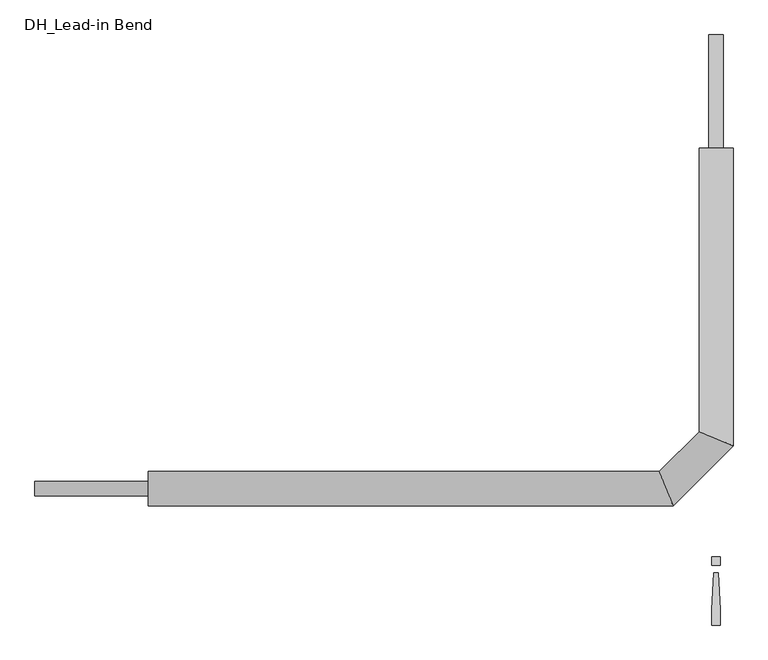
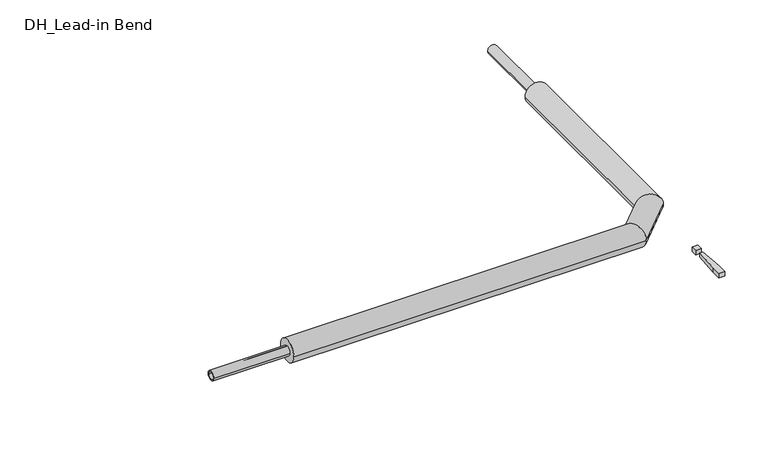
"""IFC4 building model written with IfcOpenShell, lengths in millimetres: pipe fitting geometry, DH_Lead-in Bend : INSULPEX UNO 7.4 DW."""

from ifc_helpers import new_model, si_unit, point, frame, origin, origin_with_axes, origin_2d, place, context, project, spatial, polyline, circle_curve, ellipse_curve, trimmed, segment, composite_curve, outline, extrude, source, transform, mapped, element, save
from ifc_brep_helpers import plane_surface, cylinder_surface, advanced_brep


def dh_lead_in_bend_feeb489e(model_context):
    return source(origin(), model_context, "Body", "SolidModel", [
        advanced_brep(
        [(-1250.0, -37.5, 0.0), (-1250.0, 37.5, 0.0), (-94.4669914, -37.5, 0.0), (-125.5330086, 37.5, 0.0), (37.5, 750.0, 0.0), (-37.5, 750.0, 0.0), (-37.5, 125.5330086, 0.0), (37.5, 94.4669914, 0.0)],
        [
            (0, 1, circle_curve(frame((-1250.0, 0.0, 0.0), z_axis=(-1.0, 0.0, 0.0), x_axis=(0.0, 1.0, 0.0)), 37.5)),
            (1, 0, circle_curve(frame((-1250.0, 0.0, 0.0), z_axis=(-1.0, 0.0, 0.0), x_axis=(0.0, 1.0, 0.0)), 37.5)),
            (0, 2),
            (2, 3, ellipse_curve(frame((-110.0, 0.0, 0.0), z_axis=(-0.9238795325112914, -0.3826834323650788, 0.0), x_axis=(-0.38268343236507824, 0.9238795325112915, 0.0)), 40.5897075, 37.5)),
            (3, 1),
            (3, 2, ellipse_curve(frame((-110.0, 0.0, 0.0), z_axis=(-0.9238795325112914, -0.3826834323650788, 0.0), x_axis=(-0.38268343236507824, 0.9238795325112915, 0.0)), 40.5897075, 37.5)),
            (4, 5, circle_curve(frame((0.0, 750.0, 0.0), z_axis=(0.0, 1.0, 0.0), x_axis=(-1.0, 0.0, 0.0)), 37.5)),
            (5, 4, circle_curve(frame((0.0, 750.0, 0.0), z_axis=(0.0, 1.0, 0.0), x_axis=(-1.0, 0.0, 0.0)), 37.5)),
            (6, 7, ellipse_curve(frame((0.0, 110.0, 0.0), z_axis=(0.38268343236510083, 0.9238795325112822, 0.0), x_axis=(0.9238795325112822, -0.3826834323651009, 0.0)), 40.5897075, 37.5)),
            (7, 4),
            (5, 6),
            (7, 6, ellipse_curve(frame((0.0, 110.0, 0.0), z_axis=(0.38268343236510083, 0.9238795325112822, 0.0), x_axis=(0.9238795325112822, -0.3826834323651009, 0.0)), 40.5897075, 37.5)),
            (2, 7),
            (6, 3),
        ],
        [
            plane_surface(frame((-1250.0, 0.0, 0.0), z_axis=(-1.0, 0.0, 0.0), x_axis=(0.0, 0.0, 1.0))),
            cylinder_surface(frame((-1250.0, 0.0, 0.0), z_axis=(-1.0, 0.0, 0.0), x_axis=(0.0, 1.0, 0.0)), 37.5),
            plane_surface(frame((0.0, 750.0, 0.0), z_axis=(0.0, 1.0, 0.0), x_axis=(0.0, 0.0, 1.0))),
            cylinder_surface(frame((0.0, 110.0, 0.0), z_axis=(0.0, -1.0, 0.0), x_axis=(-1.0, 0.0, 0.0)), 37.5),
            cylinder_surface(frame((-110.0, 0.0, 0.0), z_axis=(-0.7071067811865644, -0.7071067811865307, 0.0), x_axis=(-0.7071067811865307, 0.7071067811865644, 0.0)), 37.5),
        ],
        [
            (0, [[1, 2]]),
            (1, [[-1, 3, 4, 5]]),
            (1, [[-2, -5, 6, -3]]),
            (2, [[7, 8]]),
            (3, [[9, 10, -8, 11]]),
            (3, [[12, -11, -7, -10]]),
            (4, [[-4, 13, -9, 14]]),
            (4, [[-6, -14, -12, -13]]),
        ],
    ),
        extrude(outline(polyline([(4.7088895, -185.3166715), (9.4177791, -266.6553807), (9.4177791, -300.6844652), (-9.4177791, -300.6844652), (-9.4177791, -266.6553807), (-4.7088895, -185.3166715), (4.7088895, -185.3166715)])), origin_with_axes(), (0.0, 0.0, 1.0), 15.0),
        extrude(outline(polyline([(9.4177791, -150.0), (9.4177791, -168.8355582), (-9.4177791, -168.8355582), (-9.4177791, -150.0), (9.4177791, -150.0)])), origin_with_axes(), (0.0, 0.0, 1.0), 15.0),
        extrude(outline(composite_curve([segment(trimmed(circle_curve(origin_2d(), 16.0), [point((-16.0, 0.0))], [point((16.0, 0.0))], False, "CARTESIAN"), True, "CONTINUOUS"), segment(trimmed(circle_curve(origin_2d(), 16.0), [point((16.0, 0.0))], [point((-16.0, 0.0))], False, "CARTESIAN"), True, "CONTINUOUS")], self_intersect=False), holes=[composite_curve([segment(trimmed(circle_curve(origin_2d(), 11.6), [point((-11.6, 0.0))], [point((11.6, 0.0))], True, "CARTESIAN"), True, "CONTINUOUS"), segment(trimmed(circle_curve(origin_2d(), 11.6), [point((11.6, 0.0))], [point((-11.6, 0.0))], True, "CARTESIAN"), True, "CONTINUOUS")], self_intersect=False)]), frame((-1500.0, 0.0, 0.0), z_axis=(1.0, 0.0, 0.0), x_axis=(0.0, 1.0, 0.0)), (0.0, 0.0, 1.0), 250.0),
        extrude(outline(composite_curve([segment(trimmed(circle_curve(origin_2d(), 16.0), [point((0.0, 16.0))], [point((0.0, -16.0))], False, "CARTESIAN"), True, "CONTINUOUS"), segment(trimmed(circle_curve(origin_2d(), 16.0), [point((0.0, -16.0))], [point((0.0, 16.0))], False, "CARTESIAN"), True, "CONTINUOUS")], self_intersect=False), holes=[composite_curve([segment(trimmed(circle_curve(origin_2d(), 11.6), [point((0.0, 11.6))], [point((0.0, -11.6))], True, "CARTESIAN"), True, "CONTINUOUS"), segment(trimmed(circle_curve(origin_2d(), 11.6), [point((0.0, -11.6))], [point((0.0, 11.6))], True, "CARTESIAN"), True, "CONTINUOUS")], self_intersect=False)]), frame((0.0, 750.0, 0.0), z_axis=(0.0, 1.0, 0.0), x_axis=(0.0, 0.0, 1.0)), (0.0, 0.0, 1.0), 250.0),
    ])


if __name__ == "__main__":
    model = new_model("IFC4")
    model_context = context("Model", 3, world=origin())
    ifc_project = project(units=[si_unit("LENGTHUNIT", "METRE", prefix="MILLI")], contexts=[model_context])
    site = spatial("IfcSite", under=ifc_project)
    building = spatial("IfcBuilding", under=site)
    placement = place(None, origin())
    dh_lead_in_bend_shape = dh_lead_in_bend_feeb489e(model_context)
    element("IfcPipeFitting", 1, ObjectType="DH_Lead-in Bend : INSULPEX UNO 7.4 DW", at=placement, inside=building, context=model_context, shape_type="MappedRepresentation", body=[
        mapped(dh_lead_in_bend_shape, transform((0.0, 0.0, 0.0), x_axis=(1.0, 0.0, 0.0), y_axis=(0.0, 1.0, 0.0), z_axis=(0.0, 0.0, 1.0))),
    ])
    save(model, "model.ifc")
